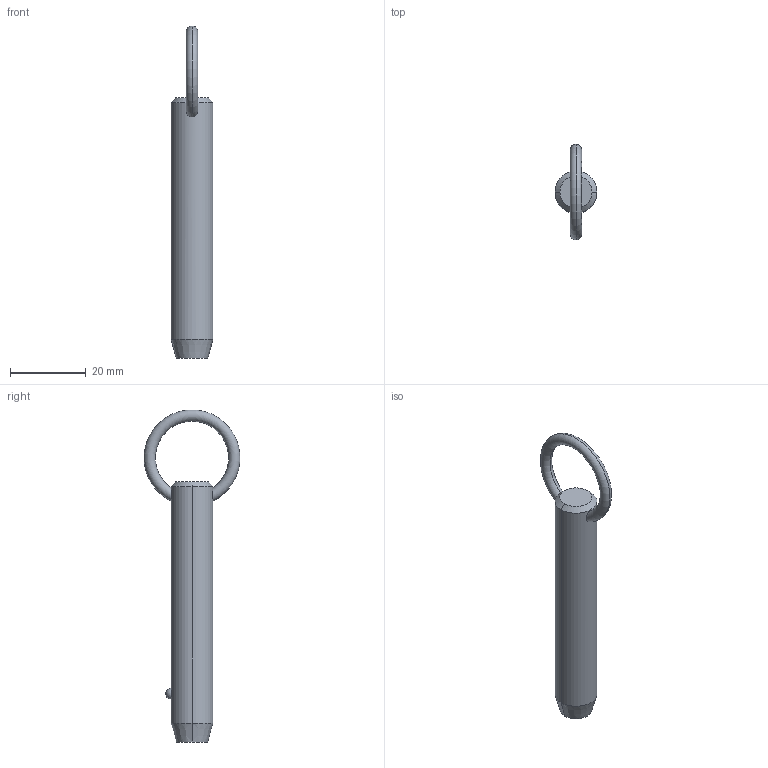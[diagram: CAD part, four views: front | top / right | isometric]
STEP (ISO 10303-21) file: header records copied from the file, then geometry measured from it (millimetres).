
FILE_DESCRIPTION (( 'STEP AP203' ), '1' );
FILE_NAME ('P1250.050-190.step', '2019-07-29T20:31:03', ( '' ), ( '' ), 'SwSTEP 2.0', 'SolidWorks 2017', '' );
FILE_SCHEMA (( 'CONFIG_CONTROL_DESIGN' ));
Length unit declared in the file: millimetre
Products named in the file (1): P1250.050-190
Bounding box: 11.1 x 25.32 x 87.85 mm (x, y, z)
Volume: 6950.1 mm3; surface area: 3055.3 mm2
Topology: 1 solids, 1 shells, 12 faces, 28 edges, 17 vertices
Faces by surface type: cone 4, torus 2, sphere 2, cylinder 2, plane 2
Entity records: 523 total; most frequent: CARTESIAN_POINT 190, DIRECTION 56, ORIENTED_EDGE 48, AXIS2_PLACEMENT_3D 25, EDGE_CURVE 24, EDGE_LOOP 15, VERTEX_POINT 15, CIRCLE 12
